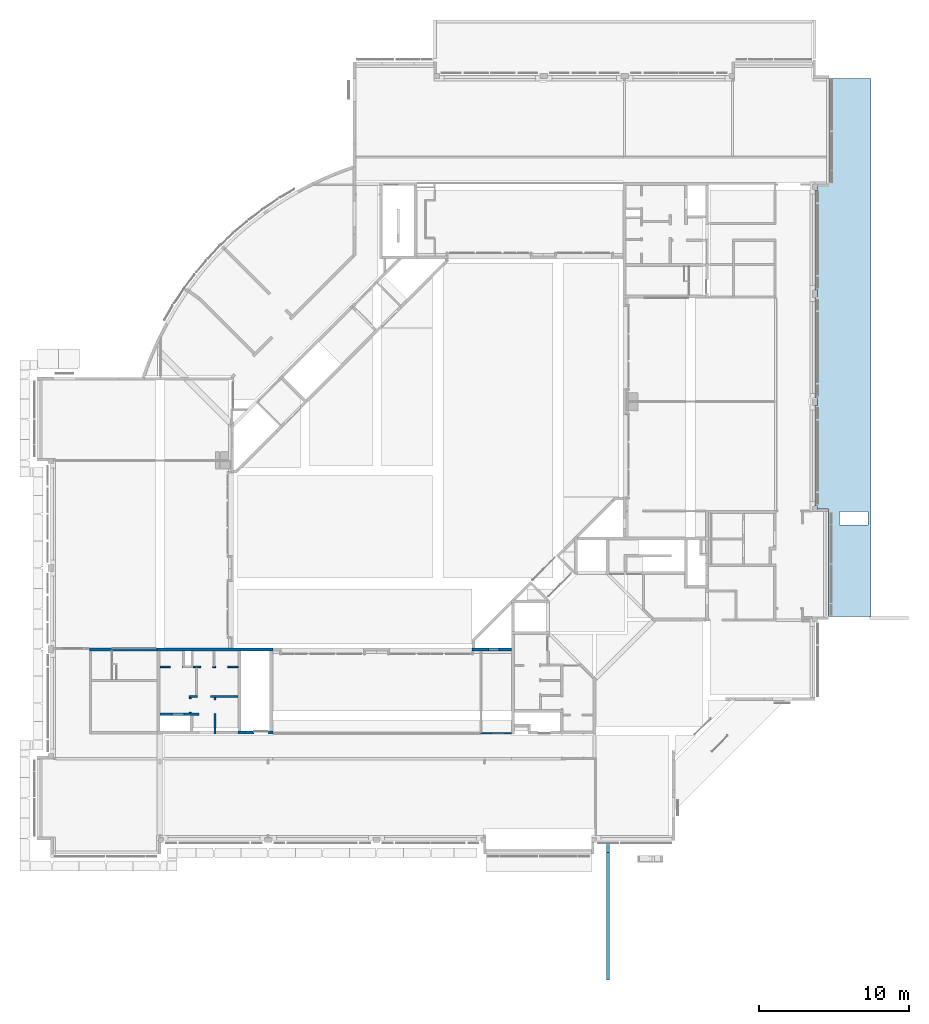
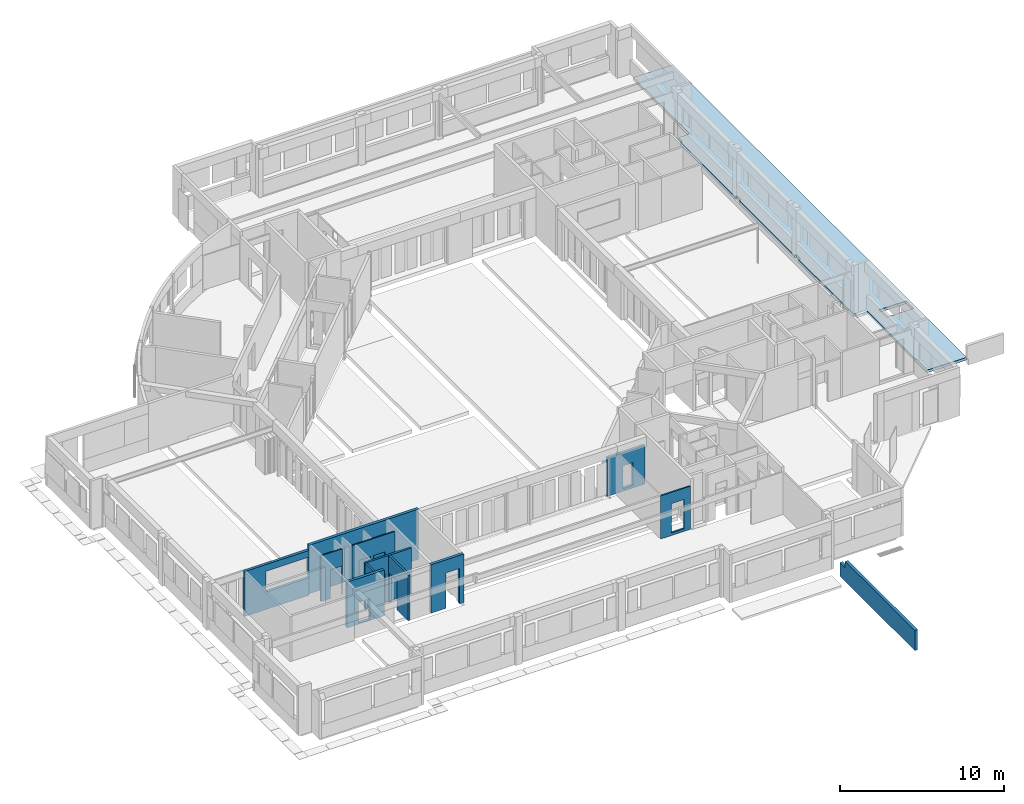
# One storey, part 26 of 30: 12 walls, 1 slab.
"""IFC4X3_ADD2 building model written with IfcOpenShell, lengths in millimetres."""

from ifc_helpers import new_model, si_unit, direction, frame, origin_with_axes, place, context, subcontext, project, spatial, faceted_brep, polygons, source, transform, mapped, type_object, type_shapes, element, save


model = new_model("IFC4X3_ADD2")

# Units and contexts
model_context = context("Model", 3, precision=1e-05, world=origin_with_axes(), true_north=direction((0.0, 1.0)))
body_context = subcontext(model_context, "Body", "Model", "MODEL_VIEW")
ifc_project = project(units=[si_unit("LENGTHUNIT", "METRE", prefix="MILLI"), si_unit("AREAUNIT", "SQUARE_METRE"), si_unit("VOLUMEUNIT", "CUBIC_METRE"), si_unit("PLANEANGLEUNIT", "RADIAN"), si_unit("TIMEUNIT", "SECOND"), si_unit("MASSUNIT", "GRAM")], contexts=[model_context])

# Site, building, storey
site_placement = place(None, origin_with_axes())
site = spatial("IfcSite", under=ifc_project, at=site_placement, Name="Site", CompositionType="ELEMENT")
building_placement = place(site_placement, origin_with_axes())
building = spatial("IfcBuilding", under=site, at=building_placement, Name="IFC Building Story")
storey_placement = place(building_placement, origin_with_axes())
storey = spatial("IfcBuildingStorey", under=building, at=storey_placement, Name="000", Elevation=0.0)

# Slab
slab_placement = place(storey_placement, origin_with_axes())
element("IfcSlab", 1, at=slab_placement, inside=storey, Name="Floor:BB_XX_Vloer uit beton, 200 mm", ObjectType="Floor:BB_XX_Vloer uit beton, 200 mm", PredefinedType="FLOOR", context=body_context, shape_type="Tessellation", body=[
    polygons([(3800.04020634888, 50600.0275077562, -750.011438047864), (3800.04020634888, 14795.0, -750.011438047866), (3600.04020634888, 14795.0, -747.872431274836), (1164.9999999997, 14795.0, -721.829593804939), (1164.99999999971, 21975.0000000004, -721.829593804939), (704.999999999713, 21975.0000000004, -716.909878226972), (704.999999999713, 21955.0000000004, -716.909878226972), (244.999999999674, 21955.0000000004, -711.990162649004), (244.999999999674, 21975.0000000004, -711.990162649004), (244.999999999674, 22144.9999996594, -711.990162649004), (94.9999999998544, 22144.9999996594, -710.385907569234), (94.9999999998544, 28855.0000000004, -710.385907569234), (244.999999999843, 28855.0000000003, -711.990162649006), (244.999999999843, 29345.0000000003, -711.990162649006), (94.9999999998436, 29345.0000000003, -710.385907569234), (94.9999999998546, 36055.0000000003, -710.385907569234), (244.999999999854, 36055.0000000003, -711.990162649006), (244.999999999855, 36545.0000000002, -711.990162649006), (94.9999999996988, 36545.0000000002, -710.385907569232), (94.9999999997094, 43199.9999999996, -710.385907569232), (244.999999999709, 43199.9999999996, -711.990162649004), (244.999999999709, 43699.9999999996, -711.990162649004), (1029.99999999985, 43699.9999999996, -720.385764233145), (1029.99999999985, 50600.0275077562, -720.385764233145), (3600.04020634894, 50600.0275077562, -747.872431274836), (1700.04020634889, 20905.0, -727.551866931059), (3600.04020634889, 20905.0, -747.872431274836), (3600.04020634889, 21805.0, -747.872431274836), (1795.000000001, 21805.0, -728.567465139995), (1700.04020634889, 21805.0, -727.551866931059), (3800.04020634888, 14795.0, -550.0), (3800.04020634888, 50600.0275077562, -549.999999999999), (3332.53350529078, 50600.0275077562, -545.0), (1794.99999999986, 50600.0275077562, -528.556027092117), (1029.99999999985, 50600.0275077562, -520.37432618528), (1029.99999999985, 43699.9999999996, -520.37432618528), (244.999999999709, 43699.9999999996, -511.978724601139), (244.999999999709, 43199.9999999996, -511.978724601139), (94.9999999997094, 43199.9999999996, -510.374469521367), (94.9999999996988, 36545.0000000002, -510.374469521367), (244.999999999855, 36545.0000000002, -511.978724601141), (244.999999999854, 36055.0000000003, -511.978724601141), (94.9999999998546, 36055.0000000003, -510.374469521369), (94.9999999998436, 29345.0000000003, -510.374469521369), (244.999999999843, 29345.0000000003, -511.978724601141), (244.999999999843, 28855.0000000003, -511.978724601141), (94.9999999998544, 28855.0000000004, -510.374469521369), (94.9999999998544, 22144.9999996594, -510.374469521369), (244.999999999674, 22144.9999996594, -511.978724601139), (244.999999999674, 21955.0000000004, -511.978724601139), (704.999999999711, 21955.0000000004, -516.898440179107), (704.999999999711, 21975.0000000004, -516.898440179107), (994.99999999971, 21975.0000000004, -519.999999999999), (994.999999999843, 14795.0, -520.000000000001), (1795.00000000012, 14795.0, -528.556027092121), (3332.53350529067, 14795.0, -545.0), (3600.04020634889, 20905.0, -547.860993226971), (3332.53350529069, 20905.0, -545.0), (1795.00000000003, 20905.0, -528.55602709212), (1700.04020634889, 20905.0, -527.540428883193), (1700.04020634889, 21805.0, -527.540428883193), (1795.00000000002, 21805.0, -528.556027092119), (3332.53350529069, 21805.0, -545.0), (3600.04020634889, 21805.0, -547.860993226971), (994.999999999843, 14795.0, -710.000000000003), (1164.9999999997, 14795.0, -710.000000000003), (994.99999999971, 21975.0000000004, -710.000000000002), (94.9999999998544, 22144.9999996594, -710.000000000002), (94.9999999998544, 22144.9999996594, -700.0), (244.999999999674, 21955.0000000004, -700.0), (704.999999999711, 21955.0000000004, -700.0), (244.999999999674, 22144.9999996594, -700.0), (244.999999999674, 22144.9999996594, -710.000000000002), (1164.99999999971, 21975.0000000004, -710.000000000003)], [[[6, 7, 8]], [[6, 8, 9]], [[10, 11, 12]], [[10, 12, 13]], [[14, 15, 16]], [[14, 16, 17]], [[14, 17, 5]], [[5, 13, 14]], [[5, 10, 13]], [[6, 9, 10]], [[10, 5, 6]], [[21, 22, 23]], [[25, 1, 23]], [[23, 24, 25]], [[1, 18, 23]], [[18, 21, 23]], [[18, 19, 20]], [[18, 20, 21]], [[1, 17, 18]], [[26, 27, 3]], [[26, 3, 4]], [[4, 5, 26]], [[30, 26, 5]], [[5, 17, 29]], [[5, 29, 30]], [[17, 1, 28]], [[17, 28, 29]], [[1, 27, 28]], [[1, 2, 27]], [[2, 3, 27]], [[38, 39, 40]], [[42, 43, 44]], [[46, 47, 48]], [[53, 54, 36]], [[36, 49, 52]], [[36, 52, 53]], [[49, 50, 52]], [[50, 51, 52]], [[46, 48, 49]], [[49, 36, 46]], [[36, 45, 46]], [[42, 44, 45]], [[45, 36, 42]], [[36, 41, 42]], [[36, 38, 40]], [[36, 40, 41]], [[36, 37, 38]], [[56, 31, 57]], [[56, 57, 58]], [[58, 59, 55]], [[58, 55, 56]], [[61, 62, 34]], [[61, 34, 36]], [[36, 54, 61]], [[54, 60, 61]], [[54, 55, 60]], [[55, 59, 60]], [[34, 35, 36]], [[62, 63, 33]], [[62, 33, 34]], [[64, 57, 31]], [[64, 31, 32]], [[32, 33, 63]], [[32, 63, 64]], [[2, 1, 32, 31]], [[66, 4, 55]], [[55, 54, 65]], [[55, 65, 66]], [[4, 3, 56]], [[4, 56, 55]], [[3, 2, 31]], [[3, 31, 56]], [[53, 67, 65, 54]], [[69, 48, 47]], [[69, 47, 12]], [[12, 68, 69]], [[12, 11, 68]], [[13, 12, 47, 46]], [[14, 13, 46, 45]], [[15, 14, 45, 44]], [[16, 15, 44, 43]], [[17, 16, 43, 42]], [[18, 17, 42, 41]], [[19, 18, 41, 40]], [[20, 19, 40, 39]], [[21, 20, 39, 38]], [[24, 23, 36, 35]], [[33, 32, 25]], [[25, 24, 34]], [[25, 34, 33]], [[24, 35, 34]], [[32, 1, 25]], [[70, 8, 7]], [[70, 7, 71]], [[71, 51, 50]], [[71, 50, 70]], [[70, 50, 9]], [[9, 8, 70]], [[73, 10, 9]], [[9, 72, 73]], [[9, 50, 49]], [[9, 49, 72]], [[72, 49, 48]], [[72, 48, 69]], [[69, 68, 73]], [[69, 73, 72]], [[68, 11, 10]], [[68, 10, 73]], [[22, 21, 38, 37]], [[23, 22, 37, 36]], [[58, 57, 27]], [[27, 26, 59]], [[27, 59, 58]], [[26, 60, 59]], [[28, 27, 57, 64]], [[63, 62, 29]], [[63, 29, 28]], [[28, 64, 63]], [[62, 61, 30]], [[62, 30, 29]], [[26, 30, 61, 60]], [[67, 53, 52]], [[67, 52, 6]], [[6, 5, 67]], [[5, 74, 67]], [[66, 74, 5, 4]], [[71, 7, 6]], [[6, 52, 51]], [[6, 51, 71]], [[65, 67, 74, 66]]]),
])

# Walls
wall_type = type_object("IfcWallType", Name="Basic Wall_BB_10.01.41#03_Gipskartonwand_43dB_MS100 _ 25.50.25_ 100 mm3", PredefinedType="NOTDEFINED")
shared_shape = source(origin_with_axes(), body_context, "Body", "Brep", [
    faceted_brep([(0.0, 37.5000000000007, 0.0), (0.0, 37.5000000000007, 3200.0), (0.0, 50.0, 3200.0), (0.0, 50.0, 0.0), (2085.0, 37.5000000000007, 3200.0), (2085.0, 50.0, 3200.0), (2085.0, 37.5000000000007, 0.0), (2085.0, 50.0, 0.0), (435.0, 37.5000000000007, 2360.000000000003), (435.0, 37.5000000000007, 195.0), (435.0, 50.0, 195.0), (435.0, 50.0, 2360.000000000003), (1325.0, 37.5000000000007, 195.0), (1325.0, 50.0, 195.0), (1325.0, 37.5000000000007, 2360.000000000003), (1325.0, 50.0, 2360.000000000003)], [[[0, 1, 2, 3]], [[1, 4, 5, 2]], [[4, 6, 7, 5]], [[6, 0, 3, 7]], [[8, 9, 10, 11]], [[9, 12, 13, 10]], [[12, 14, 15, 13]], [[14, 8, 11, 15]], [[9, 8, 14, 12], [1, 0, 6, 4]], [[15, 11, 10, 13], [7, 3, 2, 5]]], outer=[[True], [True], [True], [True], [True], [True], [True], [True], [False, True], [False, True]]),
    faceted_brep([(0.0, 24.9999999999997, 0.0), (0.0, 24.9999999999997, 3200.0), (0.0, 37.5000000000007, 3200.0), (0.0, 37.5000000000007, 0.0), (2072.5, 24.9999999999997, 3200.0), (2072.5, 37.5000000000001, 3200.0), (2072.5, 24.9999999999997, 0.0), (2072.5, 37.5000000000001, 0.0), (434.999999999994, 24.9999999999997, 2360.000000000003), (434.999999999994, 24.9999999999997, 195.0), (435.0, 37.5000000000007, 195.0), (435.0, 37.5000000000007, 2360.000000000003), (1324.999999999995, 24.9999999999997, 195.0), (1325.0, 37.5000000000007, 195.0), (1324.999999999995, 24.9999999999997, 2360.000000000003), (1325.0, 37.5000000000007, 2360.000000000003)], [[[0, 1, 2, 3]], [[1, 4, 5, 2]], [[4, 6, 7, 5]], [[6, 0, 3, 7]], [[8, 9, 10, 11]], [[9, 12, 13, 10]], [[12, 14, 15, 13]], [[14, 8, 11, 15]], [[9, 8, 14, 12], [1, 0, 6, 4]], [[15, 11, 10, 13], [7, 3, 2, 5]]], outer=[[True], [True], [True], [True], [True], [True], [True], [True], [False, True], [False, True]]),
    faceted_brep([(0.0, -24.9999999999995, 0.0), (0.0, -24.9999999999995, 3200.0), (0.0, 24.9999999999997, 3200.0), (0.0, 24.9999999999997, 0.0), (2060.0, -24.9999999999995, 3200.0), (2060.0, 25.0, 3200.0), (2060.0, -24.9999999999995, 0.0), (2060.0, 25.0, 0.0), (434.999999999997, -24.9999999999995, 2360.000000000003), (434.999999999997, -24.9999999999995, 195.0), (434.999999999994, 24.9999999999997, 195.0), (434.999999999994, 24.9999999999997, 2360.000000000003), (1324.999999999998, -24.9999999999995, 195.0), (1324.999999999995, 24.9999999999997, 195.0), (1324.999999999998, -24.9999999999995, 2360.000000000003), (1324.999999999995, 24.9999999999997, 2360.000000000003)], [[[0, 1, 2, 3]], [[1, 4, 5, 2]], [[4, 6, 7, 5]], [[6, 0, 3, 7]], [[8, 9, 10, 11]], [[9, 12, 13, 10]], [[12, 14, 15, 13]], [[14, 8, 11, 15]], [[9, 8, 14, 12], [1, 0, 6, 4]], [[15, 11, 10, 13], [7, 3, 2, 5]]], outer=[[True], [True], [True], [True], [True], [True], [True], [True], [False, True], [False, True]]),
    faceted_brep([(0.0, -37.5000000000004, 0.0), (0.0, -37.5000000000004, 3200.0), (0.0, -24.9999999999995, 3200.0), (0.0, -24.9999999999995, 0.0), (2010.0, -37.5000000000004, 3200.0), (2010.0, -25.0, 3200.0), (2010.0, -37.5000000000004, 0.0), (2010.0, -25.0, 0.0), (435.0, -37.5000000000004, 2360.000000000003), (435.0, -37.5000000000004, 195.0), (434.999999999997, -24.9999999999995, 195.0), (434.999999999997, -24.9999999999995, 2360.000000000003), (1325.0, -37.5000000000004, 195.0), (1324.999999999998, -24.9999999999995, 195.0), (1325.0, -37.5000000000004, 2360.000000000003), (1324.999999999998, -24.9999999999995, 2360.000000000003)], [[[0, 1, 2, 3]], [[1, 4, 5, 2]], [[4, 6, 7, 5]], [[6, 0, 3, 7]], [[8, 9, 10, 11]], [[9, 12, 13, 10]], [[12, 14, 15, 13]], [[14, 8, 11, 15]], [[9, 8, 14, 12], [1, 0, 6, 4]], [[15, 11, 10, 13], [7, 3, 2, 5]]], outer=[[True], [True], [True], [True], [True], [True], [True], [True], [False, True], [False, True]]),
    faceted_brep([(0.0, -50.0, 0.0), (0.0, -50.0, 3200.0), (0.0, -37.5000000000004, 3200.0), (0.0, -37.5000000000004, 0.0), (1997.500000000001, -50.0, 3200.0), (1997.500000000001, -37.5000000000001, 3200.0), (1997.500000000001, -50.0, 0.0), (1997.500000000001, -37.5000000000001, 0.0), (434.9999999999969, -50.0, 2360.000000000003), (434.9999999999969, -50.0, 195.0), (435.0, -37.5000000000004, 195.0), (435.0, -37.5000000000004, 2360.000000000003), (1324.999999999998, -50.0, 195.0), (1325.0, -37.5000000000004, 195.0), (1324.999999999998, -50.0, 2360.000000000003), (1325.0, -37.5000000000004, 2360.000000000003)], [[[0, 1, 2, 3]], [[1, 4, 5, 2]], [[4, 6, 7, 5]], [[6, 0, 3, 7]], [[8, 9, 10, 11]], [[9, 12, 13, 10]], [[12, 14, 15, 13]], [[14, 8, 11, 15]], [[9, 8, 14, 12], [1, 0, 6, 4]], [[15, 11, 10, 13], [7, 3, 2, 5]]], outer=[[True], [True], [True], [True], [True], [True], [True], [True], [False, True], [False, True]]),
])
type_shapes(wall_type, [shared_shape])
wall_1_placement = place(storey_placement, frame((-20115.0, 7035.13019419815, -200.0), z_axis=(0.0, 0.0, 1.0), x_axis=(-1.0, 0.0, 0.0)))
element("IfcWall", 2, at=wall_1_placement, inside=storey, type_object=wall_type, Name="Basic Wall:BB_10.01.41#03_Gipskartonwand_43dB_MS100 / 25.50.25, 100 mm", ObjectType="Basic Wall:BB_10.01.41#03_Gipskartonwand_43dB_MS100 / 25.50.25, 100 mm", PredefinedType="PARTITIONING", context=body_context, shape_type="MappedRepresentation", body=[
    mapped(shared_shape, transform((0.0, 0.0, 0.0))),
])
wall_2_placement = place(storey_placement, origin_with_axes())
element("IfcWall", 3, at=wall_2_placement, inside=storey, Name="Basic Wall:BB_XX_Wand uit beton, 200 mm", ObjectType="Basic Wall:BB_XX_Wand uit beton, 200 mm", PredefinedType="SOLIDWALL", context=body_context, shape_type="Tessellation", body=[
    polygons([(-43699.99999999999, 12500.0040658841, -79.999999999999), (-43500.0, 12500.0040658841, -79.999999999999), (-38099.99999999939, 12500.0040658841, -79.999999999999), (-38099.99999999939, 12500.0040658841, -199.9999999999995), (-36000.00000000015, 12500.0040658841, -200.0), (-36000.00000000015, 12500.0040658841, -79.999999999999), (-36000.00000000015, 12500.0040658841, 3520.0), (-36200.00000000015, 12500.0040658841, 3520.0), (-43500.0, 12500.0040658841, 3520.0), (-43699.99999999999, 12500.0040658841, 3520.0), (-43699.99999999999, 12700.0040658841, -79.999999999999), (-43699.99999999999, 12700.0040658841, 3520.0), (-36000.00000000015, 12700.0040658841, 3520.0), (-36000.00000000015, 12700.0040658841, -200.0), (-38099.99999999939, 12700.0040658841, -199.9999999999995), (-38099.99999999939, 12700.0040658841, -79.999999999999)], [[[3, 4, 5]], [[3, 5, 6]], [[3, 6, 8]], [[8, 9, 2]], [[8, 2, 3]], [[6, 7, 8]], [[9, 10, 1]], [[9, 1, 2]], [[16, 11, 12]], [[16, 12, 13]], [[13, 14, 16]], [[14, 15, 16]], [[6, 5, 14]], [[14, 13, 7]], [[14, 7, 6]], [[2, 1, 11]], [[11, 16, 3]], [[11, 3, 2]], [[8, 7, 13]], [[13, 12, 9]], [[13, 9, 8]], [[12, 10, 9]], [[1, 10, 12, 11]], [[5, 4, 15, 14]], [[4, 3, 16, 15]]]),
])
wall_3_placement = place(storey_placement, origin_with_axes())
element("IfcWall", 4, at=wall_3_placement, inside=storey, Name="Basic Wall:BB_XX_Wand uit beton, 200 mm", ObjectType="Basic Wall:BB_XX_Wand uit beton, 200 mm", PredefinedType="SOLIDWALL", context=body_context, shape_type="Tessellation", body=[
    polygons([(-36000.0, 7200.0, -80.0), (-36200.00000000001, 7200.0, -79.99999999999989), (-36300.0, 7200.000000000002, -79.99999999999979), (-36300.0, 7200.000000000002, 2550.0), (-37259.99999999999, 7200.000000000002, 2550.0), (-37259.99999999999, 7200.000000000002, -79.99999999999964), (-38100.00000000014, 7200.0, -79.99999999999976), (-38300.00000000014, 7200.0, -79.99999999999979), (-38300.00000000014, 7200.0, 3520.0), (-38100.00000000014, 7200.0, 3520.0), (-36200.00000000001, 7200.0, 3520.0), (-36000.0, 7200.0, 3520.0), (-36000.0, 7000.000000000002, -80.0), (-36000.0, 7000.000000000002, 3520.0), (-38300.00000000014, 7000.000000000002, 3520.0), (-38300.00000000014, 7000.000000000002, -79.99999999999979), (-37259.99999999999, 7000.0, -79.99999999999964), (-37259.99999999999, 7000.0, 2550.0), (-36300.0, 7000.000000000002, 2550.0), (-36300.0, 7000.000000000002, -79.99999999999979)], [[[7, 8, 9]], [[7, 9, 10]], [[7, 10, 5]], [[5, 6, 7]], [[10, 11, 4]], [[10, 4, 5]], [[11, 2, 3]], [[11, 3, 4]], [[11, 12, 1]], [[11, 1, 2]], [[19, 20, 13]], [[19, 13, 14]], [[14, 15, 18]], [[14, 18, 19]], [[15, 16, 17]], [[15, 17, 18]], [[1, 12, 14, 13]], [[9, 8, 16, 15]], [[2, 1, 13]], [[2, 13, 20]], [[20, 3, 2]], [[10, 9, 15]], [[15, 14, 11]], [[15, 11, 10]], [[14, 12, 11]], [[4, 3, 20, 19]], [[5, 4, 19, 18]], [[6, 5, 18, 17]], [[7, 6, 17]], [[7, 17, 16]], [[16, 8, 7]]]),
])
wall_4_placement = place(storey_placement, origin_with_axes())
element("IfcWall", 5, at=wall_4_placement, inside=storey, Name="Basic Wall:BB_XX_Wand uit beton, 190 mm", ObjectType="Basic Wall:BB_XX_Wand uit beton, 190 mm", PredefinedType="SOLIDWALL", context=body_context, shape_type="Tessellation", body=[
    polygons([(-20100.0, 12695.004065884, -200.0), (-22755.00000000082, 12695.004065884, -200.0), (-22755.00000000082, 12695.004065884, 2670.0), (-20100.0, 12695.004065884, 2670.0), (-20939.99999999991, 12695.004065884, 1700.0), (-21639.99999999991, 12695.004065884, 1700.0), (-21639.99999999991, 12695.004065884, 0.0), (-20939.99999999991, 12695.004065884, 0.0), (-20100.0, 12505.004065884, -200.0), (-20100.0, 12505.004065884, 2670.0), (-22755.00000000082, 12505.004065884, 2670.0), (-22755.00000000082, 12505.004065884, -200.0), (-20939.99999999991, 12505.004065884, 1700.0), (-20939.99999999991, 12505.004065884, 0.0), (-21639.99999999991, 12505.004065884, 0.0), (-21639.99999999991, 12505.004065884, 1700.0)], [[[8, 5, 4]], [[8, 4, 1]], [[1, 2, 7]], [[1, 7, 8]], [[2, 3, 6]], [[2, 6, 7]], [[3, 4, 5]], [[3, 5, 6]], [[16, 13, 10]], [[16, 10, 11]], [[11, 12, 15]], [[11, 15, 16]], [[12, 9, 14]], [[12, 14, 15]], [[9, 10, 13]], [[9, 13, 14]], [[2, 1, 9, 12]], [[3, 2, 12, 11]], [[4, 3, 11, 10]], [[1, 4, 10, 9]], [[6, 5, 13, 16]], [[7, 6, 16, 15]], [[8, 7, 15, 14]], [[5, 8, 14, 13]]]),
])
wall_5_placement = place(storey_placement, origin_with_axes())
element("IfcWall", 6, at=wall_5_placement, inside=storey, Name="Basic Wall:BB_XX_Wand uit metselwerk, 190 mm", ObjectType="Basic Wall:BB_XX_Wand uit metselwerk, 190 mm", PredefinedType="SOLIDWALL", context=body_context, shape_type="Tessellation", body=[
    polygons([(-43500.0, 8200.0, -79.99999999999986), (-41499.99999999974, 8200.000000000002, -79.99999999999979), (-41309.99999999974, 8200.0, -79.99999999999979), (-40900.00000000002, 8200.000000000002, -79.99999999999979), (-40900.00000000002, 8200.000000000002, 3320.0), (-41309.99999999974, 8200.0, 3320.0), (-41499.99999999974, 8200.000000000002, 3320.0), (-43500.0, 8200.0, 3320.0), (-41889.9999999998, 8200.0, 1545.0), (-41889.9999999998, 8200.0, 2.899014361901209e-12), (-42699.9999999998, 8200.000000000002, 2.899014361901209e-12), (-42699.9999999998, 8200.000000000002, 1545.0), (-40900.00000000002, 8390.000000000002, -79.99999999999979), (-43500.0, 8390.0, -79.99999999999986), (-43500.0, 8390.0, 3320.0), (-40900.00000000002, 8390.000000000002, 3320.0), (-41889.99999999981, 8390.0, 2.899014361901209e-12), (-41889.99999999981, 8390.0, 1545.0), (-42699.9999999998, 8390.000000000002, 1545.0), (-42699.9999999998, 8390.000000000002, 2.899014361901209e-12)], [[[3, 4, 5]], [[3, 5, 6]], [[3, 6, 9]], [[9, 2, 3]], [[12, 9, 7]], [[12, 7, 8]], [[8, 1, 12]], [[1, 11, 12]], [[11, 1, 2]], [[2, 10, 11]], [[2, 9, 10]], [[9, 6, 7]], [[20, 17, 13]], [[13, 14, 20]], [[14, 19, 20]], [[19, 14, 15]], [[15, 16, 18]], [[15, 18, 19]], [[16, 13, 17]], [[16, 17, 18]], [[2, 1, 14]], [[2, 14, 13]], [[13, 3, 2]], [[13, 4, 3]], [[5, 4, 13, 16]], [[6, 5, 16]], [[16, 7, 6]], [[16, 15, 8]], [[16, 8, 7]], [[1, 8, 15, 14]], [[9, 18, 17, 10]], [[10, 17, 20, 11]], [[11, 20, 19, 12]], [[18, 9, 12, 19]]]),
])
wall_6_placement = place(storey_placement, origin_with_axes())
element("IfcWall", 7, at=wall_6_placement, inside=storey, Name="Basic Wall:BB_XX_Wand uit metselwerk, 140 mm", ObjectType="Basic Wall:BB_XX_Wand uit metselwerk, 140 mm", PredefinedType="SOLIDWALL", context=body_context, shape_type="Tessellation", body=[
    polygons([(-39770.0, 9399.99999999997, 3320.0), (-39770.0, 6999.999999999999, 3320.0), (-39770.0, 7000.0, 3140.0), (-39770.0, 6999.999999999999, -79.99999999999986), (-39770.0, 7139.99999999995, -79.99999999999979), (-39770.0, 8339.999999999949, -79.99999999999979), (-39770.0, 8339.999999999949, 2060.0), (-39770.0, 9249.999999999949, 2060.0), (-39770.0, 9249.999999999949, -79.99999999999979), (-39770.0, 9399.99999999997, -79.99999999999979), (-39910.0, 6999.999999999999, 3320.0), (-39910.0, 9399.99999999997, 3320.0), (-39910.0, 9399.99999999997, -79.99999999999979), (-39910.0, 9249.999999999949, -79.99999999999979), (-39910.0, 9249.999999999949, 2060.0), (-39910.0, 8339.999999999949, 2060.0), (-39910.0, 8339.999999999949, -79.99999999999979), (-39910.0, 6999.999999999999, -79.99999999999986)], [[[8, 9, 10]], [[8, 10, 1]], [[1, 7, 8]], [[7, 1, 3]], [[3, 5, 6]], [[3, 6, 7]], [[3, 4, 5]], [[1, 2, 3]], [[16, 17, 18]], [[16, 18, 11]], [[11, 12, 16]], [[12, 15, 16]], [[12, 13, 14]], [[12, 14, 15]], [[5, 4, 18]], [[18, 17, 6]], [[18, 6, 5]], [[2, 1, 12, 11]], [[3, 2, 11]], [[11, 18, 4]], [[11, 4, 3]], [[1, 10, 13, 12]], [[16, 7, 6, 17]], [[8, 15, 14, 9]], [[7, 16, 15, 8]], [[13, 10, 9, 14]]]),
])
wall_7_placement = place(storey_placement, origin_with_axes())
element("IfcWall", 8, at=wall_7_placement, inside=storey, Name="Basic Wall:BB_XX_Wand uit metselwerk, 140 mm", ObjectType="Basic Wall:BB_XX_Wand uit metselwerk, 140 mm", PredefinedType="SOLIDWALL", context=body_context, shape_type="Tessellation", body=[
    polygons([(-41560.0, 8389.999999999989, -79.99999999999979), (-41560.0, 8389.999999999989, 3320.0), (-41560.0, 9400.0, 3320.0), (-41560.0, 9400.0, -79.99999999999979), (-41560.0, 9324.999999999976, -79.99999999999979), (-41560.0, 9324.999999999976, 2060.0), (-41560.0, 8464.999999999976, 2060.0), (-41560.0, 8464.999999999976, -79.99999999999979), (-41420.0, 8389.999999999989, 3320.0), (-41420.0, 8389.999999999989, -79.99999999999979), (-41420.0, 8464.999999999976, -79.99999999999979), (-41420.0, 8464.999999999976, 2060.0), (-41420.0, 9324.999999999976, 2060.0), (-41420.0, 9324.999999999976, -79.99999999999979), (-41420.0, 9400.0, -79.99999999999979), (-41420.0, 9400.0, 3320.0)], [[[7, 8, 1]], [[1, 2, 7]], [[2, 3, 6]], [[2, 6, 7]], [[6, 3, 4]], [[4, 5, 6]], [[13, 14, 15]], [[15, 16, 13]], [[16, 9, 12]], [[16, 12, 13]], [[12, 9, 10]], [[10, 11, 12]], [[4, 15, 14, 5]], [[2, 1, 10, 9]], [[3, 2, 9, 16]], [[4, 3, 16, 15]], [[13, 6, 5, 14]], [[7, 12, 11, 8]], [[6, 13, 12, 7]], [[10, 1, 8, 11]]]),
])
wall_8_placement = place(storey_placement, origin_with_axes())
element("IfcWall", 9, at=wall_8_placement, inside=storey, Name="Basic Wall:BB_XX_Wand uit metselwerk, 140 mm", ObjectType="Basic Wall:BB_XX_Wand uit metselwerk, 140 mm", PredefinedType="SOLIDWALL", context=body_context, shape_type="Tessellation", body=[
    polygons([(-38300.00000000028, 9400.0, -79.99999999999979), (-38300.00000000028, 9400.0, 3320.0), (-39770.0, 9400.0, 3320.0), (-39910.0, 9400.0, 3320.0), (-41419.99999999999, 9400.0, 3320.0), (-41560.0, 9400.0, 3320.0), (-41560.0, 9400.0, -79.99999999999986), (-41419.99999999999, 9400.0, -79.99999999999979), (-41010.0, 9400.0, -79.99999999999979), (-41009.99999999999, 9400.0, 2060.0), (-40150.0, 9400.0, 2060.0), (-40150.0, 9400.0, -79.99999999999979), (-39910.0, 9400.0, -79.99999999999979), (-39770.0, 9400.0, -79.99999999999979), (-38300.00000000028, 9540.0, 3320.0), (-38300.00000000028, 9540.0, -79.99999999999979), (-40150.0, 9540.0, -79.99999999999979), (-40149.99999999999, 9540.0, 2060.0), (-41009.99999999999, 9540.0, 2060.0), (-41009.99999999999, 9540.0, -79.99999999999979), (-41560.0, 9540.000000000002, -79.99999999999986), (-41560.0, 9540.000000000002, 3320.0)], [[[5, 6, 7]], [[5, 7, 8]], [[11, 12, 13]], [[11, 13, 4]], [[4, 5, 10]], [[4, 10, 11]], [[5, 8, 9]], [[5, 9, 10]], [[13, 14, 3]], [[13, 3, 4]], [[14, 1, 2]], [[14, 2, 3]], [[19, 20, 21]], [[19, 21, 22]], [[22, 18, 19]], [[18, 22, 15]], [[15, 16, 17]], [[15, 17, 18]], [[8, 7, 21]], [[21, 20, 9]], [[21, 9, 8]], [[2, 1, 16, 15]], [[3, 2, 15]], [[15, 4, 3]], [[4, 15, 22]], [[22, 5, 4]], [[22, 6, 5]], [[7, 6, 22, 21]], [[11, 18, 17, 12]], [[19, 10, 9, 20]], [[18, 11, 10, 19]], [[13, 12, 17]], [[17, 14, 13]], [[17, 16, 1]], [[17, 1, 14]]]),
])
wall_9_placement = place(storey_placement, origin_with_axes())
element("IfcWall", 10, at=wall_9_placement, inside=storey, Name="Basic Wall:BB_XX_Wand uit metselwerk, 90 mm", ObjectType="Basic Wall:BB_XX_Wand uit metselwerk, 90 mm", PredefinedType="SOLIDWALL", context=body_context, shape_type="Tessellation", body=[
    polygons([(-41989.99999999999, 11410.004065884, -79.99999999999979), (-41989.99999999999, 11410.004065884, 3320.0), (-43500.0, 11410.004065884, 3320.0), (-43500.0, 11410.004065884, -79.99999999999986), (-42807.99999999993, 11410.004065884, -79.99999999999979), (-42807.99999999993, 11410.004065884, 2060.0), (-42001.99999999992, 11410.004065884, 2060.0), (-42001.99999999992, 11410.004065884, -79.99999999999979), (-41990.0, 11500.004065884, 3320.0), (-41990.0, 11500.004065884, -79.99999999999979), (-42001.99999999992, 11500.004065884, -79.99999999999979), (-42001.99999999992, 11500.004065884, 2060.0), (-42807.99999999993, 11500.004065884, 2060.0), (-42807.99999999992, 11500.004065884, -79.99999999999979), (-43500.0, 11500.004065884, -79.99999999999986), (-43500.0, 11500.004065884, 3320.0)], [[[7, 8, 1]], [[1, 2, 7]], [[2, 3, 6]], [[2, 6, 7]], [[3, 4, 5]], [[3, 5, 6]], [[13, 14, 15]], [[13, 15, 16]], [[16, 9, 12]], [[16, 12, 13]], [[12, 9, 10]], [[10, 11, 12]], [[4, 15, 14, 5]], [[2, 1, 10, 9]], [[3, 2, 9, 16]], [[4, 3, 16, 15]], [[7, 12, 11, 8]], [[13, 6, 5, 14]], [[12, 7, 6, 13]], [[10, 1, 8, 11]]]),
])
wall_10_placement = place(storey_placement, origin_with_axes())
element("IfcWall", 11, at=wall_10_placement, inside=storey, Name="Basic Wall:BB_XX_Wand uit metselwerk, 90 mm", ObjectType="Basic Wall:BB_XX_Wand uit metselwerk, 90 mm", PredefinedType="SOLIDWALL", context=body_context, shape_type="Tessellation", body=[
    polygons([(-41300.0, 11500.004065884, -79.99999999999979), (-41300.0, 11500.004065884, 3320.0), (-38300.0, 11500.004065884, 3320.0), (-38300.0, 11500.004065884, -79.99999999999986), (-38989.99999999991, 11500.004065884, -79.99999999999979), (-38989.99999999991, 11500.004065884, 2060.0), (-39795.9999999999, 11500.004065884, 2060.0), (-39795.9999999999, 11500.004065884, -79.99999999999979), (-40001.99999999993, 11500.004065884, -79.99999999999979), (-40001.99999999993, 11500.004065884, 2060.0), (-40807.99999999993, 11500.004065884, 2060.0), (-40807.99999999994, 11500.004065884, -79.99999999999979), (-41300.0, 11410.004065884, 3320.0), (-41300.0, 11410.004065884, -79.99999999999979), (-41150.0, 11410.004065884, -79.99999999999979), (-41010.0, 11410.004065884, -79.99999999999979), (-40807.99999999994, 11410.004065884, -79.99999999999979), (-40807.99999999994, 11410.004065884, 2060.0), (-40001.99999999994, 11410.004065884, 2060.0), (-40001.99999999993, 11410.004065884, -79.99999999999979), (-39795.9999999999, 11410.004065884, -79.99999999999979), (-39795.99999999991, 11410.004065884, 2060.0), (-38989.99999999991, 11410.004065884, 2060.0), (-38989.99999999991, 11410.004065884, -79.99999999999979), (-38300.0, 11410.004065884, -79.99999999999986), (-38300.0, 11410.004065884, 3320.0), (-41010.0, 11410.004065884, 3320.0), (-41150.0, 11410.004065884, 3320.0)], [[[11, 12, 1]], [[11, 1, 2]], [[2, 10, 11]], [[2, 7, 10]], [[7, 8, 9]], [[7, 9, 10]], [[2, 3, 7]], [[3, 6, 7]], [[3, 4, 5]], [[3, 5, 6]], [[23, 24, 25]], [[23, 25, 26]], [[26, 22, 23]], [[26, 19, 22]], [[19, 20, 21]], [[19, 21, 22]], [[26, 27, 19]], [[27, 18, 19]], [[27, 16, 17]], [[27, 17, 18]], [[27, 28, 15]], [[27, 15, 16]], [[28, 13, 14]], [[28, 14, 15]], [[4, 25, 24, 5]], [[2, 1, 14, 13]], [[27, 26, 3]], [[27, 3, 2]], [[2, 28, 27]], [[2, 13, 28]], [[4, 3, 26, 25]], [[19, 10, 9, 20]], [[11, 18, 17, 12]], [[10, 19, 18, 11]], [[7, 22, 21, 8]], [[23, 6, 5, 24]], [[22, 7, 6, 23]], [[20, 9, 8, 21]], [[15, 14, 1]], [[1, 12, 16]], [[1, 16, 15]], [[12, 17, 16]]]),
])
wall_11_placement = place(storey_placement, origin_with_axes())
element("IfcWall", 12, at=wall_11_placement, inside=storey, Name="Basic Wall:BB_03.09.24#04_Wand uit metselwerk_vol, 190 mm", ObjectType="Basic Wall:BB_03.09.24#04_Wand uit metselwerk_vol, 190 mm", PredefinedType="SOLIDWALL", context=body_context, shape_type="Tessellation", body=[
    polygons([(-48205.0, 12510.0040658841, -200.0), (-48064.99999999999, 12510.0040658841, -200.0), (-43699.99999999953, 12510.0040658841, -200.0), (-43699.99999999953, 12510.0040658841, 1100.00000000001), (-46705.00000000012, 12510.0040658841, 1100.0), (-46705.00000000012, 12510.0040658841, 2640.00000000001), (-43699.99999999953, 12510.0040658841, 2640.00000000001), (-43699.99999999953, 12510.0040658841, 3140.0), (-48064.99999999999, 12510.0040658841, 3140.0), (-48205.0, 12510.0040658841, 3140.0), (-48205.0, 12700.0040658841, -200.0), (-48205.0, 12700.0040658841, 3140.0), (-43699.99999999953, 12700.0040658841, 3140.0), (-43699.99999999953, 12700.0040658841, 2640.00000000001), (-46705.00000000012, 12700.0040658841, 2640.00000000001), (-46705.00000000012, 12700.0040658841, 1100.0), (-43699.99999999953, 12700.0040658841, 1100.00000000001), (-43699.99999999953, 12700.0040658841, -200.0)], [[[6, 7, 8]], [[6, 8, 9]], [[9, 2, 5]], [[9, 5, 6]], [[2, 3, 4]], [[2, 4, 5]], [[9, 10, 1]], [[9, 1, 2]], [[16, 17, 18]], [[16, 18, 11]], [[11, 12, 15]], [[11, 15, 16]], [[12, 13, 14]], [[12, 14, 15]], [[1, 10, 12, 11]], [[2, 1, 11]], [[11, 18, 3]], [[11, 3, 2]], [[4, 3, 18, 17]], [[9, 8, 13]], [[9, 13, 12]], [[12, 10, 9]], [[5, 4, 17, 16]], [[6, 5, 16, 15]], [[7, 6, 15, 14]], [[8, 7, 14, 13]]]),
])
wall_12_placement = place(storey_placement, origin_with_axes())
element("IfcWall", 13, at=wall_12_placement, inside=storey, Name="Basic Wall:BB_XX_Wand uit beton, 200 mm", ObjectType="Basic Wall:BB_XX_Wand uit beton, 200 mm", PredefinedType="SOLIDWALL", context=body_context, shape_type="Tessellation", body=[
    polygons([(-13800.0, -265.0, -1500.0), (-13800.0, -9385.0000000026, -1500.0), (-13800.0, -9385.0000000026, 0.0), (-13800.0, -915.0, 0.0), (-13800.0, -915.0, -480.0), (-13800.0, -265.0, -480.0), (-13600.0, -265.0, -1500.0), (-13600.0, -265.0, -480.0), (-13600.0, -915.0, -480.0), (-13600.0, -915.0, 0.0), (-13600.0, -9385.0000000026, 0.0), (-13600.0, -9385.0000000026, -1500.0)], [[[5, 6, 1]], [[5, 1, 2]], [[5, 2, 3]], [[3, 4, 5]], [[9, 10, 11]], [[11, 12, 7]], [[11, 7, 9]], [[7, 8, 9]], [[2, 1, 7, 12]], [[3, 2, 12, 11]], [[4, 3, 11, 10]], [[1, 6, 8, 7]], [[5, 4, 10, 9]], [[6, 5, 9, 8]]]),
])

save(model, "model.ifc")
